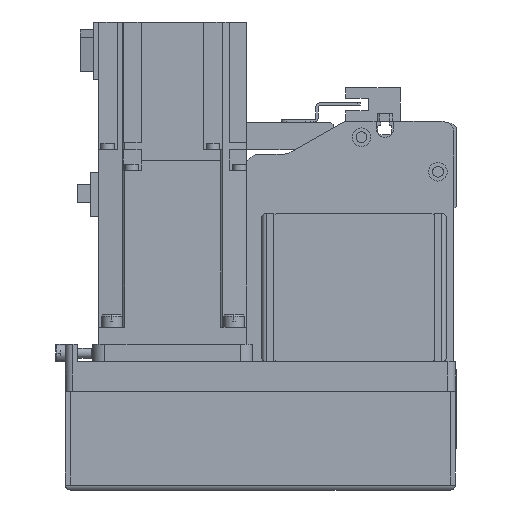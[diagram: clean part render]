
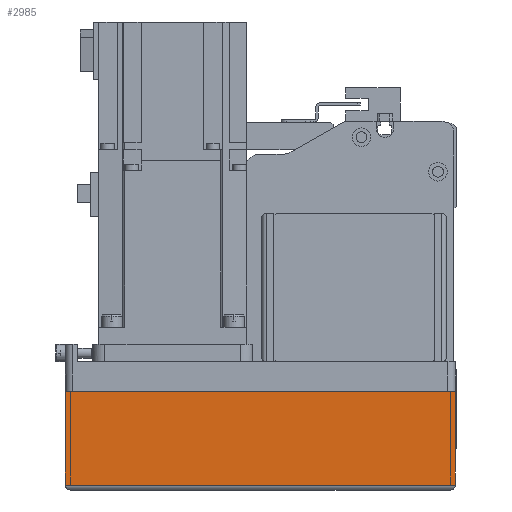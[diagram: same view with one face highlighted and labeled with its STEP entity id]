
A CAD part, left-side view. The second image highlights one B-rep face of the part: STEP entity #2985.
In plain terms, the highlighted planar face has unit normal (-1, 0, 0) as drawn and (0, -1, 0) by its records, which use the part's own axes.
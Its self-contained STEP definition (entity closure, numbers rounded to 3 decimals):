
#2985 = ADVANCED_FACE( '', ( #6136 ), #6137, .T. );
#6136 = FACE_OUTER_BOUND( '', #9268, .T. );
#6137 = PLANE( '', #9269 );
#9268 = EDGE_LOOP( '', ( #17727, #17728, #17729, #17730 ) );
#9269 = AXIS2_PLACEMENT_3D( '', #17731, #17732, #17733 );
#17727 = ORIENTED_EDGE( '', *, *, #21157, .F. );
#17728 = ORIENTED_EDGE( '', *, *, #20485, .F. );
#17729 = ORIENTED_EDGE( '', *, *, #20774, .T. );
#17730 = ORIENTED_EDGE( '', *, *, #20357, .T. );
#17731 = CARTESIAN_POINT( '', ( -158., -39., -12.1 ) );
#17732 = DIRECTION( '', ( 0., -1., 0. ) );
#17733 = DIRECTION( '', ( 0., 0., -1. ) );
#20357 = EDGE_CURVE( '', #25150, #25154, #25156, .T. );
#20485 = EDGE_CURVE( '', #23146, #25335, #25336, .T. );
#20774 = EDGE_CURVE( '', #23146, #25150, #25700, .T. );
#21157 = EDGE_CURVE( '', #25335, #25154, #26126, .T. );
#23146 = VERTEX_POINT( '', #28905 );
#25150 = VERTEX_POINT( '', #31845 );
#25154 = VERTEX_POINT( '', #31850 );
#25156 = LINE( '', #31852, #31853 );
#25335 = VERTEX_POINT( '', #32110 );
#25336 = LINE( '', #32111, #32112 );
#25700 = LINE( '', #32660, #32661 );
#26126 = LINE( '', #33235, #33236 );
#28905 = CARTESIAN_POINT( '', ( -158., -39., -12.1 ) );
#31845 = CARTESIAN_POINT( '', ( -158., -39., -50. ) );
#31850 = CARTESIAN_POINT( '', ( 0., -39., -50. ) );
#31852 = CARTESIAN_POINT( '', ( -158., -39., -50. ) );
#31853 = VECTOR( '', #36430, 1000. );
#32110 = CARTESIAN_POINT( '', ( 0., -39., -12.1 ) );
#32111 = CARTESIAN_POINT( '', ( -158., -39., -12.1 ) );
#32112 = VECTOR( '', #36598, 1000. );
#32660 = CARTESIAN_POINT( '', ( -158., -39., -12.1 ) );
#32661 = VECTOR( '', #36886, 1000. );
#33235 = CARTESIAN_POINT( '', ( 0., -39., -12.1 ) );
#33236 = VECTOR( '', #37160, 1000. );
#36430 = DIRECTION( '', ( 1., 0., 0. ) );
#36598 = DIRECTION( '', ( 1., 0., 0. ) );
#36886 = DIRECTION( '', ( 0., 0., -1. ) );
#37160 = DIRECTION( '', ( 0., 0., -1. ) );
